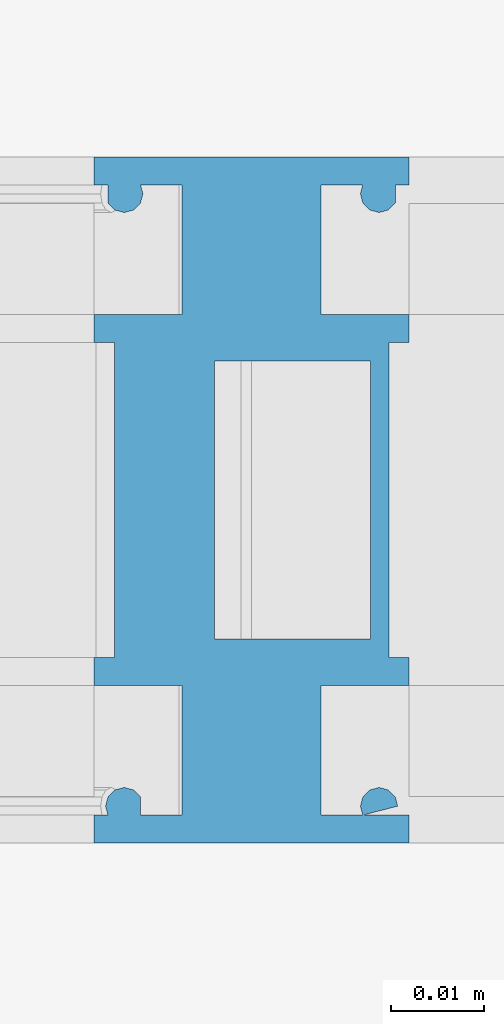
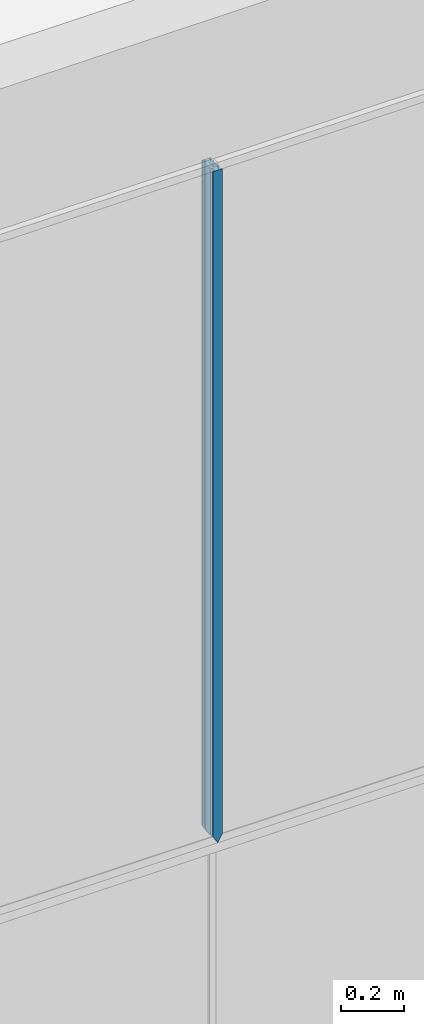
# One storey, part 66 of 246: 1 member, 1 element without a shape of its own.
"""IFC2X3 building model written with IfcOpenShell, lengths in millimetres."""

from ifc_helpers import new_model, entity, si_unit, converted_unit, derived_unit, money_unit, direction, frame, origin_with_axes, place, context, subcontext, project, spatial, faceted_brep, material, material_list, type_object, element, aggregate, save


model = new_model("IFC2X3")

# Units and contexts
model_context = context("Model", 3, precision=0.01, world=origin_with_axes(), true_north=direction((0.0, 1.0)))
body_context = subcontext(model_context, "Body", "Model", "MODEL_VIEW")
ifc_project = project(units=[si_unit("LENGTHUNIT", "METRE", prefix="MILLI"), si_unit("AREAUNIT", "SQUARE_METRE"), si_unit("VOLUMEUNIT", "CUBIC_METRE"), converted_unit("PLANEANGLEUNIT", "DEGREE", entity("IfcPlaneAngleMeasure", 0.0174532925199), si_unit("PLANEANGLEUNIT", "RADIAN"), dimensions=[0, 0, 0, 0, 0, 0, 0]), si_unit("SOLIDANGLEUNIT", "STERADIAN"), money_unit("EUR"), converted_unit("TIMEUNIT", "Year", entity("IfcTimeMeasure", 31556926.0), si_unit("TIMEUNIT", "SECOND"), dimensions=[0, 0, 1, 0, 0, 0, 0]), si_unit("MASSUNIT", "GRAM", prefix="KILO"), si_unit("THERMODYNAMICTEMPERATUREUNIT", "DEGREE_CELSIUS"), si_unit("LUMINOUSINTENSITYUNIT", "LUMEN"), si_unit("ENERGYUNIT", "JOULE", prefix="MEGA"), derived_unit("THERMALCONDUCTANCEUNIT", [(si_unit("POWERUNIT", "WATT"), 1), (si_unit("LENGTHUNIT", "METRE"), -1), (si_unit("THERMODYNAMICTEMPERATUREUNIT", "KELVIN"), -1)]), derived_unit("SPECIFICHEATCAPACITYUNIT", [(si_unit("ENERGYUNIT", "JOULE"), 1), (si_unit("MASSUNIT", "GRAM", prefix="KILO"), -1), (si_unit("THERMODYNAMICTEMPERATUREUNIT", "KELVIN"), -1)]), derived_unit("MASSDENSITYUNIT", [(si_unit("MASSUNIT", "GRAM", prefix="KILO"), 1), (si_unit("VOLUMEUNIT", "CUBIC_METRE"), -1)])], contexts=[model_context])

# Site, building, storey
site_placement = place(None, origin_with_axes())
site = spatial("IfcSite", under=ifc_project, at=site_placement, Name="L.Koidula tn 11b", CompositionType="ELEMENT")
building_placement = place(site_placement, origin_with_axes())
building = spatial("IfcBuilding", under=site, at=building_placement, Name="Rakvere Riigigümnaasium", CompositionType="ELEMENT")
storey_placement = place(building_placement, origin_with_axes())
storey = spatial("IfcBuildingStorey", under=building, at=storey_placement, Name="1.korrus 0,00", CompositionType="ELEMENT", Elevation=0.0)

# Curtain wall, member
curtain_wall_type = type_object("IfcCurtainWallType", Name="Curtain Wall Type", PredefinedType="NOTDEFINED")
curtain_wall_placement = place(storey_placement, frame((26572.4999007, 61372.4546496, 0.0), z_axis=(0.0, 0.0, 1.0), x_axis=(1.0, 0.0, 0.0)))
curtain_wall = element("IfcCurtainWall", 1, at=curtain_wall_placement, inside=storey, type_object=curtain_wall_type, Name="SKLF-01")
ifc_material_1 = material(Name="Klaasvill")
ifc_material_2 = material(Name="Teras RAL7012")
ifc_material_list = material_list([ifc_material_1, ifc_material_2])
member_type = type_object("IfcMemberType", Name="Siseklaasfassaad-Vaheprofiil-Doubleline30 34 x 42", PredefinedType="MULLION")
member_placement = place(curtain_wall_placement, frame((0.0, 0.0, 2400.0), z_axis=(0.0, 0.0, 1.0), x_axis=(-1.0, 0.0, 0.0)))
member = element("IfcMember", 2, at=member_placement, type_object=member_type, material=ifc_material_list, Name="Frame-Siseklaasf-021", ObjectType="MULLION", context=body_context, shape_type="Brep", body=[
    faceted_brep([(15.4955493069, 27.0307503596, 27.3450735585), (15.7655837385, 28.0385325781, 27.8216046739), (15.7655837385, 28.0385325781, 2619.9999807), (15.4955493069, 27.0307503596, 2619.9999807), (15.5126239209, 29.0161444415, 27.3752052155), (14.75780152, 26.2930025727, 26.0431663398), (13.7500193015, 26.0229681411, 24.2647280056), (12.742237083, 26.2930025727, 22.4862896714), (12.004489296, 27.0307503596, 21.1843824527), (11.987414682, 29.0161444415, 21.1542507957), (15.5126239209, 29.0161444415, 2619.9999807), (11.987414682, 29.0161444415, 2619.9999807), (12.004489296, 27.0307503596, 2619.9999807), (12.742237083, 26.2930025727, 2619.9999807), (13.7500193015, 26.0229681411, 2619.9999807), (14.75780152, 26.2930025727, 2619.9999807)], [[[0, 1, 2, 3]], [[4, 1, 0, 5, 6, 7, 8, 9]], [[1, 4, 10, 2]], [[3, 2, 10, 11, 12, 13, 14, 15]], [[5, 0, 3, 15]], [[6, 5, 15, 14]], [[7, 6, 14, 13]], [[8, 7, 13, 12]], [[9, 8, 12, 11]], [[4, 9, 11, 10]]]),
    faceted_brep([(11.987414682, -39.0161444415, 21.1542507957), (15.5126239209, -39.0161444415, 27.3752052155), (15.5126239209, -39.0161444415, 2619.9999807), (11.987414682, -39.0161444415, 2619.9999807), (15.4955493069, -37.0307503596, 27.3450735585), (11.7344548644, -38.0385325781, 20.7078513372), (12.004489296, -37.0307503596, 21.1843824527), (12.742237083, -36.2930025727, 22.4862896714), (13.7500193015, -36.0229681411, 24.2647280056), (14.75780152, -36.2930025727, 26.0431663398), (15.4955493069, -37.0307503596, 2619.9999807), (12.004489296, -37.0307503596, 2619.9999807), (11.7344548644, -38.0385325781, 2619.9999807), (14.75780152, -36.2930025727, 2619.9999807), (13.7500193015, -36.0229681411, 2619.9999807), (12.742237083, -36.2930025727, 2619.9999807)], [[[0, 1, 2, 3]], [[4, 1, 0, 5, 6, 7, 8, 9]], [[1, 4, 10, 2]], [[11, 12, 3, 2, 10, 13, 14, 15]], [[5, 0, 3, 12]], [[6, 5, 12, 11]], [[7, 6, 11, 15]], [[8, 7, 15, 14]], [[9, 8, 14, 13]], [[4, 9, 13, 10]]]),
    faceted_brep([(-12.004489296, 27.0307503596, 21.1843824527), (-11.7344548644, 28.0385325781, 20.7078513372), (-11.7344548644, 28.0385325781, 2619.9999807), (-12.004489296, 27.0307503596, 2619.9999807), (-11.987414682, 29.0161444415, 21.1542507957), (-12.742237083, 26.2930025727, 22.4862896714), (-13.7500193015, 26.0229681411, 24.2647280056), (-14.75780152, 26.2930025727, 26.0431663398), (-15.4955493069, 27.0307503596, 27.3450735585), (-15.7655837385, 28.0385325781, 27.8216046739), (-11.987414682, 29.0161444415, 2619.9999807), (-12.742237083, 26.2930025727, 2619.9999807), (-15.7655837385, 28.0385325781, 2619.9999807), (-15.4955493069, 27.0307503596, 2619.9999807), (-14.75780152, 26.2930025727, 2619.9999807), (-13.7500193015, 26.0229681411, 2619.9999807)], [[[0, 1, 2, 3]], [[4, 1, 0, 5, 6, 7, 8, 9]], [[1, 4, 10, 2]], [[11, 3, 2, 10, 12, 13, 14, 15]], [[5, 0, 3, 11]], [[6, 5, 11, 15]], [[7, 6, 15, 14]], [[8, 7, 14, 13]], [[9, 8, 13, 12]], [[4, 9, 12, 10]]]),
    faceted_brep([(-11.987414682, -39.0161444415, 21.1542507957), (-11.7344548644, -38.0385325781, 20.7078513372), (-11.7344548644, -38.0385325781, 2619.9999807), (-11.987414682, -39.0161444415, 2619.9999807), (-12.004489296, -37.0307503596, 21.1843824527), (-15.5126239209, -39.0161444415, 27.3752052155), (-15.4955493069, -37.0307503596, 27.3450735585), (-14.75780152, -36.2930025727, 26.0431663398), (-13.7500193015, -36.0229681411, 24.2647280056), (-12.742237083, -36.2930025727, 22.4862896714), (-12.004489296, -37.0307503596, 2619.9999807), (-12.742237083, -36.2930025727, 2619.9999807), (-13.7500193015, -36.0229681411, 2619.9999807), (-14.75780152, -36.2930025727, 2619.9999807), (-15.4955493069, -37.0307503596, 2619.9999807), (-15.5126239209, -39.0161444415, 2619.9999807)], [[[0, 1, 2, 3]], [[4, 1, 0, 5, 6, 7, 8, 9]], [[1, 4, 10, 2]], [[11, 12, 13, 14, 15, 3, 2, 10]], [[5, 0, 3, 15]], [[6, 5, 15, 14]], [[7, 6, 14, 13]], [[8, 7, 13, 12]], [[9, 8, 12, 11]], [[4, 9, 11, 10]]]),
    faceted_brep([(-12.8000002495, 10.0000001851, 22.588224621), (0.0, 10.0000001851, 0.0), (4.0000003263, 10.0000001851, 7.05882063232), (4.0000003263, 10.0000001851, 2619.9999807), (-12.8000002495, 10.0000001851, 2619.9999807), (-14.8000001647, 12.0000001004, 26.1176344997), (0.0, 12.0000001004, 0.0), (-12.8000002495, -20.0000001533, 22.588224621), (0.0, -20.0000001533, 0.0), (0.0, -22.0000000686, 0.0), (-14.8000001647, -22.0000000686, 26.1176344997), (14.8000003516, 12.0000001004, 26.1176348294), (14.8000003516, -22.0000000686, 26.1176348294), (4.0000003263, -20.0000001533, 7.05882063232), (4.0000003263, -20.0000001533, 2619.9999807), (14.8000003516, 12.0000001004, 2619.9999807), (-3.08905781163e-07, 12.0000001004, 2619.9999807), (-14.8000001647, 12.0000001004, 2619.9999807), (-14.8000001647, -22.0000000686, 2619.9999807), (-3.08905781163e-07, -22.0000000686, 2619.9999807), (14.8000003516, -22.0000000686, 2619.9999807), (-12.8000002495, -20.0000001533, 2619.9999807)], [[[0, 1, 2, 3, 4]], [[5, 6, 1, 0, 7, 8, 9, 10]], [[6, 11, 12, 9, 8, 13, 2, 1]], [[2, 13, 14, 3]], [[15, 16, 17, 18, 19, 20], [3, 14, 21, 4]], [[7, 0, 4, 21]], [[6, 5, 17, 16]], [[8, 7, 21, 14, 13]], [[10, 9, 19, 18]], [[5, 10, 18, 17]], [[11, 6, 16, 15]], [[12, 11, 15, 20]], [[9, 12, 20, 19]]]),
    faceted_brep([(17.0000193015, 29.0161446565, 30.0000193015), (17.0000193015, 32.0000000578, 30.0000193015), (17.0000193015, 32.0000000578, 2619.9999807), (17.0000193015, 29.0161446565, 2619.9999807), (0.0, 32.0000000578, 0.0), (15.5126239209, 29.0161444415, 27.3752052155), (11.987414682, 29.0161444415, 21.1542507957), (7.50000002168, 29.0161446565, 13.2352876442), (7.50000002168, 15.0000000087, 13.2352876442), (17.0000193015, 15.0000000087, 30.0000193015), (17.0000193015, 12.0, 30.0000193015), (14.8000003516, 12.0000001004, 26.1176348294), (0.0, 12.0, 0.0), (0.0, 32.0000000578, 2619.9999807), (15.5126239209, 29.0161444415, 2619.9999807), (0.0, 12.0, 2619.9999807), (14.8000003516, 12.0000001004, 2619.9999807), (17.0000193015, 12.0, 2619.9999807), (17.0000193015, 15.0000000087, 2619.9999807), (7.50000002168, 15.0000000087, 2619.9999807), (7.50000002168, 29.0161446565, 2619.9999807), (11.987414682, 29.0161444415, 2619.9999807)], [[[0, 1, 2, 3]], [[4, 1, 0, 5, 6, 7, 8, 9, 10, 11, 12]], [[1, 4, 13, 2]], [[14, 3, 2, 13, 15, 16, 17, 18, 19, 20, 21]], [[5, 0, 3, 14]], [[6, 5, 14, 21]], [[7, 6, 21, 20]], [[8, 7, 20, 19]], [[9, 8, 19, 18]], [[10, 9, 18, 17]], [[11, 10, 17, 16]], [[12, 11, 16, 15]], [[4, 12, 15, 13]]]),
    faceted_brep([(17.0000193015, -24.9999999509, 30.0000193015), (17.0000193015, -21.9999999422, 30.0000193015), (17.0000193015, -21.9999999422, 2619.9999807), (17.0000193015, -24.9999999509, 2619.9999807), (14.8000003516, -22.0000000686, 26.1176348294), (7.50000002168, -24.9999999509, 13.2352876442), (7.50000002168, -39.0161445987, 13.2352876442), (11.987414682, -39.0161444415, 21.1542507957), (15.5126239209, -39.0161444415, 27.3752052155), (17.0000193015, -39.0161445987, 30.0000193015), (17.0000193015, -42.0, 30.0000193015), (0.0, -42.0, 0.0), (0.0, -21.9999999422, 0.0), (14.8000003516, -22.0000000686, 2619.9999807), (0.0, -21.9999999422, 2619.9999807), (0.0, -42.0, 2619.9999807), (17.0000193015, -42.0, 2619.9999807), (17.0000193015, -39.0161445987, 2619.9999807), (15.5126239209, -39.0161444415, 2619.9999807), (11.987414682, -39.0161444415, 2619.9999807), (7.50000002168, -39.0161445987, 2619.9999807), (7.50000002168, -24.9999999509, 2619.9999807)], [[[0, 1, 2, 3]], [[4, 1, 0, 5, 6, 7, 8, 9, 10, 11, 12]], [[1, 4, 13, 2]], [[3, 2, 13, 14, 15, 16, 17, 18, 19, 20, 21]], [[5, 0, 3, 21]], [[6, 5, 21, 20]], [[7, 6, 20, 19]], [[8, 7, 19, 18]], [[9, 8, 18, 17]], [[10, 9, 17, 16]], [[11, 10, 16, 15]], [[12, 11, 15, 14]], [[4, 12, 14, 13]]]),
    faceted_brep([(0.0, 12.0, 0.0), (0.0, 32.0, 0.0), (0.0, 32.0, 2619.9999807), (0.0, 12.0, 2619.9999807), (-17.0000193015, 32.0, 30.0000193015), (-14.8000001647, 12.0000001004, 26.1176344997), (-17.0000193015, 12.0, 30.0000193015), (-17.0000193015, 15.0, 30.0000193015), (-7.49999999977, 15.0, 13.2352876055), (-7.49999999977, 29.0161444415, 13.2352876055), (-11.987414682, 29.0161444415, 21.1542507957), (-15.5126239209, 29.0161444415, 27.3752052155), (-17.0000193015, 29.0161444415, 30.0000193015), (-17.0000193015, 32.0, 2619.9999807), (-17.0000193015, 15.0, 2619.9999807), (-17.0000193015, 12.0, 2619.9999807), (-14.8000001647, 12.0000001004, 2619.9999807), (-17.0000193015, 29.0161444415, 2619.9999807), (-15.5126239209, 29.0161444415, 2619.9999807), (-11.987414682, 29.0161444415, 2619.9999807), (-7.49999999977, 29.0161444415, 2619.9999807), (-7.49999999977, 15.0, 2619.9999807)], [[[0, 1, 2, 3]], [[4, 1, 0, 5, 6, 7, 8, 9, 10, 11, 12]], [[1, 4, 13, 2]], [[14, 15, 16, 3, 2, 13, 17, 18, 19, 20, 21]], [[5, 0, 3, 16]], [[6, 5, 16, 15]], [[7, 6, 15, 14]], [[8, 7, 14, 21]], [[9, 8, 21, 20]], [[10, 9, 20, 19]], [[11, 10, 19, 18]], [[12, 11, 18, 17]], [[4, 12, 17, 13]]]),
    faceted_brep([(0.0, -42.0, 0.0), (0.0, -22.0, 0.0), (0.0, -22.0, 2619.9999807), (0.0, -42.0, 2619.9999807), (-14.8000001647, -22.0000000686, 26.1176344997), (-17.0000193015, -42.0, 30.0000193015), (-17.0000193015, -39.0161444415, 30.0000193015), (-15.5126239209, -39.0161444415, 27.3752052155), (-11.987414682, -39.0161444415, 21.1542507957), (-7.49999999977, -39.0161444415, 13.2352876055), (-7.49999999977, -25.0, 13.2352876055), (-17.0000193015, -25.0, 30.0000193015), (-17.0000193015, -22.0, 30.0000193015), (-14.8000001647, -22.0000000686, 2619.9999807), (-17.0000193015, -39.0161444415, 2619.9999807), (-17.0000193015, -42.0, 2619.9999807), (-17.0000193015, -22.0, 2619.9999807), (-17.0000193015, -25.0, 2619.9999807), (-7.49999999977, -25.0, 2619.9999807), (-7.49999999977, -39.0161444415, 2619.9999807), (-11.987414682, -39.0161444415, 2619.9999807), (-15.5126239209, -39.0161444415, 2619.9999807)], [[[0, 1, 2, 3]], [[4, 1, 0, 5, 6, 7, 8, 9, 10, 11, 12]], [[1, 4, 13, 2]], [[14, 15, 3, 2, 13, 16, 17, 18, 19, 20, 21]], [[5, 0, 3, 15]], [[6, 5, 15, 14]], [[7, 6, 14, 21]], [[8, 7, 21, 20]], [[9, 8, 20, 19]], [[10, 9, 19, 18]], [[11, 10, 18, 17]], [[12, 11, 17, 16]], [[4, 12, 16, 13]]]),
])
aggregate(curtain_wall, [member])

save(model, "model.ifc")
